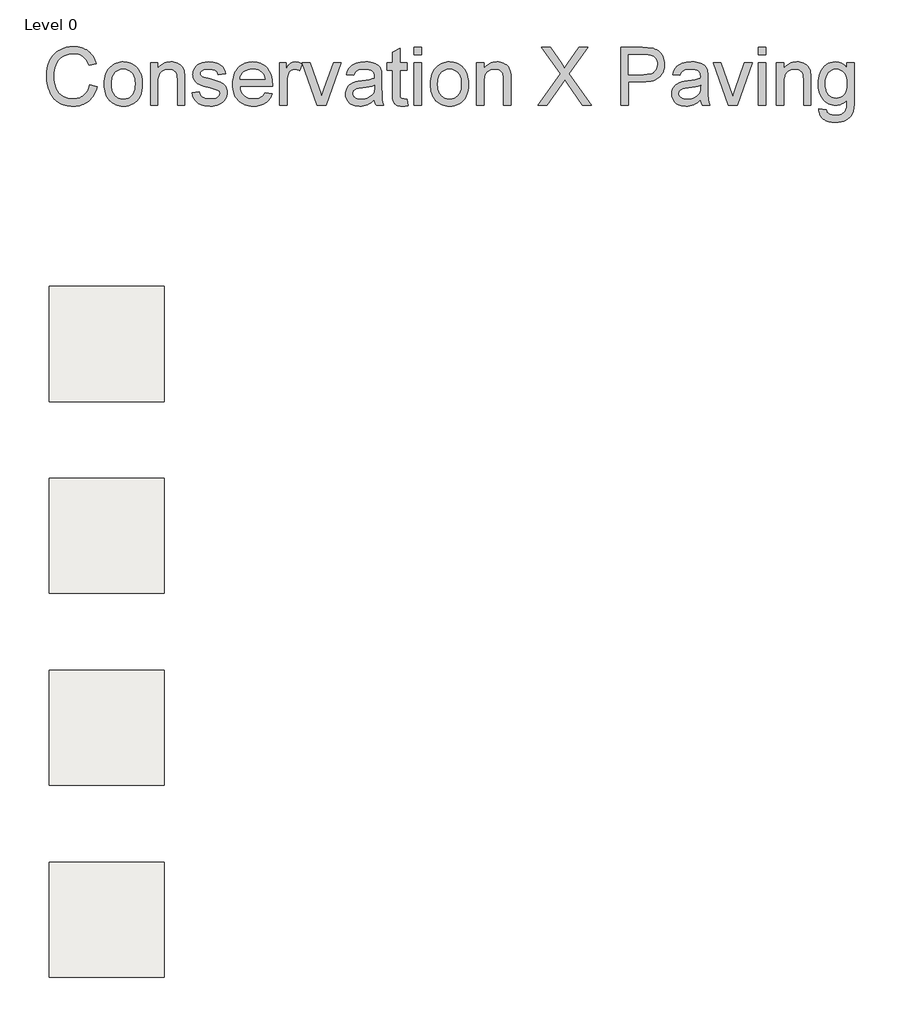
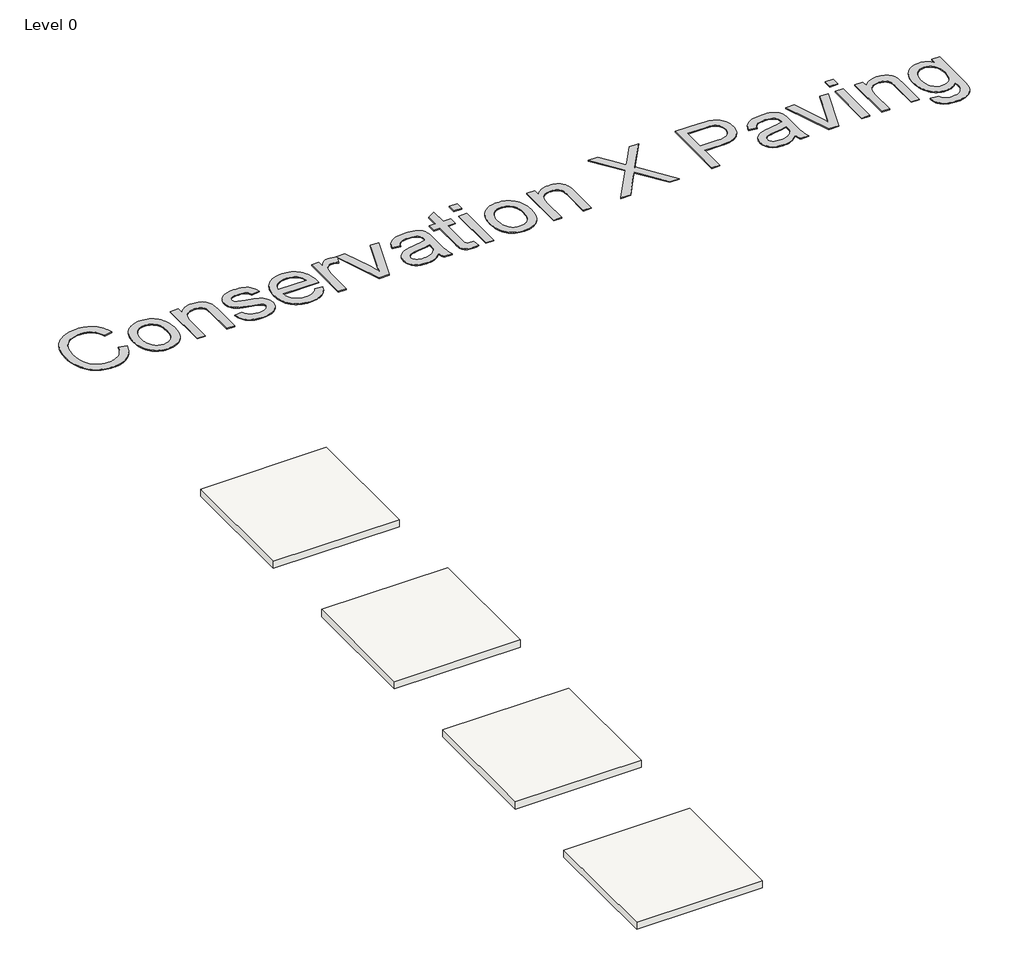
# One storey, incomplete: 4 slabs, 1 proxy.
"""IFC4 building model written with IfcOpenShell, lengths in millimetres."""

from ifc_helpers import new_model, si_unit, frame, origin, origin_with_axes, place, context, project, spatial, polyline, outline, extrude, element, save

model = new_model("IFC4")

# Units and contexts
model_context = context("Model", 3, world=origin())
ifc_project = project(units=[si_unit("LENGTHUNIT", "METRE", prefix="MILLI")], contexts=[model_context])

# Site, building, storey
site = spatial("IfcSite", under=ifc_project)
building = spatial("IfcBuilding", under=site)
storey = spatial("IfcBuildingStorey", under=building, Name="Level 0", Elevation=0.0)

# Proxy
placement = place(None, origin())
element("IfcBuildingElementProxy", 1, Name="1000mm Arial", ObjectType="1000mm Arial", at=placement, inside=storey, context=model_context, shape_type="SweptSolid", body=[
    extrude(outline(polyline([(-155.8721828, 3435.7231714), (32.4833987, 3387.162748), (15.3941304, 3326.7467525), (-4.7876459, 3270.0268215), (-28.0619303, 3217.0029548), (-54.4287227, 3167.6751526), (-83.8880231, 3122.0434148), (-116.4398315, 3080.1077415), (-152.0841479, 3041.8681325), (-190.8209724, 3007.324588), (-232.2306895, 2976.6725452), (-275.8936838, 2950.1074414), (-321.8099553, 2927.6292767), (-369.979504, 2909.238051), (-420.40233, 2894.9337644), (-473.0784332, 2884.7164168), (-528.0078136, 2878.5860082), (-585.1904712, 2876.5425387), (-644.0257237, 2878.0887927), (-700.0501279, 2882.7275547), (-753.2636837, 2890.4588248), (-803.6663911, 2901.2826029), (-851.2582501, 2915.198889), (-896.0392608, 2932.2076831), (-938.0094231, 2952.3089852), (-977.1687371, 2975.5027954), (-1013.7959882, 3001.6281652), (-1048.1699621, 3030.5241463), (-1080.2906588, 3062.1907387), (-1110.1580783, 3096.6279423), (-1137.7722206, 3133.8357572), (-1163.1330856, 3173.8141834), (-1186.2406734, 3216.5632209), (-1207.094984, 3262.0828696), (-1241.61841, 3357.6172253), (-1266.278, 3456.6004746), (-1281.073754, 3559.0326176), (-1286.005672, 3664.9136544), (-1280.4299605, 3778.520213), (-1263.7028261, 3884.631176), (-1251.1574752, 3934.8758091), (-1235.8242686, 3983.2465433), (-1217.7032063, 4029.7433786), (-1196.7942882, 4074.366315), (-1173.3159443, 4116.7388482), (-1147.4866045, 4156.4844741), (-1119.3062689, 4193.6031926), (-1088.7749373, 4228.0950037), (-1055.8926099, 4259.9599075), (-1020.6592867, 4289.1979039), (-983.0749675, 4315.8089929), (-943.1396525, 4339.7931745), (-858.8486904, 4379.4669484), (-770.4190558, 4407.8053584), (-677.8507487, 4424.8084043), (-581.1437693, 4430.4760863), (-526.1597814, 4428.6424245), (-473.4118262, 4423.141439), (-422.8999038, 4413.9731299), (-374.6240142, 4401.1374972), (-328.5841573, 4384.6345408), (-284.7803332, 4364.4642608), (-243.2125418, 4340.6266571), (-203.8807832, 4313.1217299), (-167.1184504, 4282.2886201), (-133.2589364, 4248.4664692), (-102.3022414, 4211.6552771), (-74.2483651, 4171.8550437), (-49.0973078, 4129.0657691), (-26.8490693, 4083.2874534), (-7.5036497, 4034.5200964), (8.938951, 3982.7636982), (-179.4166305, 3937.8820948), (-209.0771164, 4011.9528352), (-244.7156847, 4075.2400347), (-286.3323354, 4127.7436932), (-333.9270685, 4169.4638107), (-387.7757955, 4201.2511144), (-448.154428, 4223.9563313), (-515.0629659, 4237.5794614), (-588.5014092, 4242.1205048), (-672.9993049, 4237.08512), (-750.2775165, 4221.9789655), (-820.336044, 4196.8020415), (-883.1748873, 4161.5543478), (-938.0008009, 4117.8223757), (-984.0205392, 4067.1926161), (-1021.2341023, 4009.6650691), (-1049.6414901, 3945.2397347), (-1070.6452528, 3876.8366762), (-1085.6479404, 3807.375957), (-1094.649553, 3736.857577), (-1097.6500905, 3665.2815363), (-1094.09773, 3575.3343885), (-1083.4406484, 3491.2733526), (-1065.6788458, 3413.0984287), (-1040.8123222, 3340.8096166), (-1008.4387067, 3275.8439555), (-968.1556282, 3219.6384844), (-919.9630868, 3172.1932034), (-863.8610825, 3133.5081123), (-802.5742414, 3103.4912408), (-738.8271894, 3082.0506182), (-672.6199266, 3069.1862447), (-603.952453, 3064.8981202), (-522.0642201, 3070.7382469), (-483.5774404, 3078.0384052), (-446.7288853, 3088.2586269), (-411.5185546, 3101.3989119), (-377.9464485, 3117.4592603), (-346.0125669, 3136.439672), (-315.7169097, 3158.340147), (-287.4273591, 3183.1147001), (-261.511797, 3210.7173461), (-237.9702234, 3241.1480848), (-216.8026383, 3274.4069165), (-198.0090417, 3310.4938409), (-181.5894336, 3349.4088582), (-155.8721828, 3435.7231714)])), origin_with_axes(), (0.0, 0.0, 1.0), 20.0),
    extrude(outline(polyline([(220.8389802, 3453.3815071), (223.3854134, 3527.5154773), (231.024713, 3596.6945369), (243.7568789, 3660.9186858), (261.5819112, 3720.1879241), (284.4998099, 3774.5022518), (312.5105749, 3823.8616689), (345.6142063, 3868.2661753), (383.8107041, 3907.7157712), (418.77099, 3936.4278113), (455.5936784, 3961.3115793), (494.2787695, 3982.3670754), (534.8262631, 3999.5942995), (577.2361594, 4012.9932515), (621.5084582, 4022.5639315), (667.6431597, 4028.3063396), (715.6402637, 4030.2204756), (768.8423232, 4027.8895982), (819.5554311, 4020.8969662), (867.7795873, 4009.2425796), (913.5147919, 3992.9264383), (956.7610449, 3971.9485423), (997.5183462, 3946.3088917), (1035.786696, 3916.0074864), (1071.5660941, 3881.0443265), (1103.9425837, 3841.9712349), (1132.0022081, 3799.3400347), (1155.7449672, 3753.1507257), (1175.170861, 3703.4033081), (1190.2798895, 3650.0977818), (1201.0720527, 3593.2341469), (1207.5473506, 3532.8124032), (1209.7057833, 3468.8325509), (1205.8890076, 3368.0098916), (1194.4386805, 3278.5455889), (1175.354802, 3200.4396428), (1148.6373721, 3133.6920533), (1114.6197838, 3076.0380469), (1073.6354303, 3025.21285), (1025.6843115, 2981.2164626), (970.7664274, 2944.0488848), (911.0200921, 2914.5148584), (848.5836198, 2893.4191252), (783.4570103, 2880.7616853), (715.6402637, 2876.5425387), (661.5989735, 2878.8647938), (610.2075832, 2885.8315591), (561.4660929, 2897.4428345), (515.3745026, 2913.6986202), (471.9328123, 2934.5989161), (431.141022, 2960.1437221), (392.9991317, 2990.3330383), (357.5071414, 3025.1668647), (325.4755412, 3064.3692898), (297.7148209, 3107.6644022), (274.2249807, 3155.0522017), (255.0060205, 3206.5326884), (240.0579404, 3262.1058623), (229.3807403, 3321.7717234), (222.9744203, 3385.5302716), (220.8389802, 3453.3815071)]), holes=[polyline([(409.1945618, 3453.7493891), (414.6438138, 3362.3881949), (421.4553789, 3321.3032486), (430.99157, 3283.2820696), (443.2523871, 3248.3246578), (458.2378302, 3216.4310133), (475.9478994, 3187.601136), (496.3825946, 3161.8350259), (518.8808779, 3139.1154387), (542.7817113, 3119.4251297), (568.0850947, 3102.764099), (594.7910283, 3089.1323467), (622.899512, 3078.5298726), (652.4105458, 3070.9566768), (715.6402637, 3064.8981202), (778.5480849, 3070.9911658), (807.9326593, 3078.6074727), (835.9376762, 3089.2703024), (862.5631356, 3102.9796549), (887.8090375, 3119.7355301), (911.6753819, 3139.5379281), (934.1621689, 3162.3868489), (954.5968641, 3188.3570185), (972.3069333, 3217.523163), (987.2923764, 3249.8852822), (999.5531935, 3285.4433763), (1009.0893846, 3324.1974453), (1015.9009497, 3366.147489), (1021.3502017, 3459.635501), (1015.8664607, 3548.0996246), (1009.0117845, 3588.0464359), (999.4152378, 3625.1364136), (987.0768205, 3659.3695577), (971.9965328, 3690.7458682), (954.1743746, 3719.2653451), (933.6103459, 3744.9279883), (887.0847698, 3787.3378846), (861.8302457, 3803.9989152), (835.2478974, 3817.6306676), (807.3377251, 3828.2331417), (778.0997287, 3835.8063374), (715.6402637, 3841.864894), (652.4105458, 3835.82933), (622.899512, 3828.2848751), (594.7910283, 3817.7226381), (568.0850947, 3804.1426191), (542.7817113, 3787.5448182), (518.8808779, 3767.9292352), (496.3825946, 3745.2958703), (475.9478994, 3719.6159826), (458.2378302, 3690.8608313), (443.2523871, 3659.0304165), (430.99157, 3624.1247381), (421.4553789, 3586.1437962), (414.6438138, 3545.0875907), (409.1945618, 3453.7493891)])]), origin_with_axes(), (0.0, 0.0, 1.0), 20.0),
    extrude(outline(polyline([(1421.6058125, 2900.0869864), (1421.6058125, 4006.6760279), (1609.961394, 4006.6760279), (1609.961394, 3852.1655899), (1641.0359263, 3893.8972037), (1675.3984039, 3930.0646024), (1713.0488269, 3960.6677858), (1753.9871951, 3985.7067541), (1798.2135087, 4005.1815073), (1845.7277677, 4019.0920452), (1896.529972, 4027.438368), (1950.6201216, 4030.2204756), (1998.0194174, 4027.9786947), (2043.4643401, 4021.2533519), (2086.9548897, 4010.0444474), (2128.4910662, 3994.351981), (2166.4978748, 3975.0151837), (2199.4003208, 3952.8732861), (2227.1984041, 3927.9262883), (2249.8921246, 3900.1741903), (2268.5276469, 3869.651481), (2284.1511354, 3836.3926494), (2296.7625901, 3800.3976954), (2306.3620109, 3761.6666191), (2313.8116213, 3690.2055415), (2316.2948248, 3579.5650315), (2316.2948248, 2900.0869864), (2127.9392432, 2900.0869864), (2127.9392432, 3554.1811738), (2122.5129838, 3651.577932), (2115.7301595, 3689.7226964), (2106.2342055, 3720.8317176), (2093.3008541, 3747.0318135), (2076.2058377, 3770.4498017), (2054.9491561, 3791.0856824), (2029.5308095, 3808.9394555), (2000.8245176, 3823.3443348), (1969.7040001, 3833.6335344), (1936.1692569, 3839.8070541), (1900.2202882, 3841.864894), (1843.0261343, 3837.2433765), (1789.9016749, 3823.3788238), (1740.8469101, 3800.271236), (1695.8618399, 3767.920613), (1675.7289229, 3747.3594584), (1658.2803948, 3722.648135), (1643.5162557, 3693.7866428), (1631.4365055, 3660.7749819), (1622.0411442, 3623.6131522), (1615.3301719, 3582.3011538), (1609.961394, 3487.2266507), (1609.961394, 2900.0869864), (1421.6058125, 2900.0869864)])), origin_with_axes(), (0.0, 0.0, 1.0), 20.0),
    extrude(outline(polyline([(2504.6504063, 3229.7092541), (2693.0059878, 3253.2537017), (2704.387337, 3210.3034788), (2722.7124589, 3172.6875448), (2747.9813535, 3140.4058997), (2780.1940207, 3113.4585436), (2819.442431, 3092.2133584), (2865.8185551, 3077.0382261), (2919.3223927, 3067.9331467), (2979.9539441, 3064.8981202), (3040.5165175, 3067.6802278), (3092.7097756, 3076.0265506), (3136.5337183, 3089.9370885), (3171.9883455, 3109.4118416), (3199.3495689, 3132.6343926), (3218.8932999, 3157.788324), (3230.6195385, 3184.8736359), (3234.5282847, 3213.8903283), (3230.5965459, 3239.3201712), (3218.8013294, 3261.8989286), (3199.1426353, 3281.6266006), (3171.6204635, 3298.5031872), (3101.079091, 3322.4155168), (2977.7466521, 3352.2139585), (2805.8537898, 3401.924013), (2742.4631235, 3424.0544143), (2694.1096338, 3444.3683982), (2655.7464395, 3465.6480724), (2622.3266595, 3490.6755444), (2593.8502938, 3519.4508142), (2570.3173424, 3551.9738818), (2551.8887537, 3587.2675607), (2538.7254761, 3624.3546644), (2530.8275095, 3663.2351927), (2528.194854, 3703.9091458), (2530.3101755, 3741.0997163), (2536.6561399, 3776.8877366), (2547.2327472, 3811.2732069), (2562.0399975, 3844.256127), (2580.5030752, 3875.1697109), (2602.0471645, 3903.3471725), (2626.6722656, 3928.7885117), (2654.3783783, 3951.4937286), (2706.3876954, 3981.7980079), (2774.1239678, 4007.2278509), (2852.4368475, 4024.4723194), (2936.1759866, 4030.2204756), (2999.4746824, 4027.9097168), (3058.7726615, 4020.9774404), (3114.0699239, 4009.4236465), (3165.3664696, 3993.248335), (3211.4436895, 3973.1297884), (3251.0829745, 3949.7462891), (3284.2843246, 3923.0978371), (3311.0477397, 3893.1844324), (3332.7527774, 3858.9599105), (3350.7789952, 3819.3781071), (3365.126393, 3774.4390221), (3375.7949709, 3724.1426556), (3187.4393893, 3700.5982079), (3178.4607694, 3732.0636148), (3163.6650154, 3759.8731944), (3143.0521274, 3784.0269466), (3116.6221053, 3804.5248715), (3084.259986, 3820.8611314), (3045.8508064, 3832.5298884), (3001.3945666, 3839.5311426), (2950.8912664, 3841.864894), (2892.3060587, 3839.6346094), (2842.7339599, 3832.9437556), (2802.1749699, 3821.7923327), (2770.6290888, 3806.1803405), (2746.969678, 3787.6022997), (2730.0700988, 3767.552731), (2719.9303513, 3746.0316343), (2716.5504355, 3723.0390096), (2722.1606359, 3694.0683025), (2738.9912372, 3668.2245923), (2767.7780033, 3645.1399971), (2809.2566983, 3626.6539269), (2971.4926582, 3586.5547894), (3137.9132757, 3537.3505725), (3247.9559775, 3497.8952285), (3286.6755575, 3478.6504017), (3320.9805536, 3455.4968286), (3350.8709657, 3428.4345093), (3376.3467939, 3397.4634439), (3396.706763, 3362.5376469), (3411.2495982, 3323.6111333), (3419.9752992, 3280.683903), (3422.8838663, 3233.755956), (3419.4694615, 3186.6210754), (3409.2262472, 3140.8657522), (3392.1542233, 3096.4899866), (3368.25339, 3053.4937784), (3337.9146217, 3013.5900782), (3301.5287931, 2978.4918366), (3259.0959042, 2948.1990536), (3210.615955, 2922.7117291), (3157.4110215, 2902.5127083), (3100.8031795, 2888.0848363), (3040.792429, 2879.4281131), (2977.3787701, 2876.5425387), (2876.0042878, 2882.1067539), (2830.1282534, 2889.0620228), (2787.4596901, 2898.7993994), (2747.9985979, 2911.3188835), (2711.744977, 2926.6204753), (2678.6988271, 2944.7041746), (2648.8601484, 2965.5699815), (2621.9012959, 2989.1719108), (2597.4946248, 3015.4639771), (2575.640135, 3044.4461805), (2556.3378266, 3076.1185211), (2539.5876995, 3110.4809987), (2525.3897538, 3147.5336134), (2504.6504063, 3229.7092541)])), origin_with_axes(), (0.0, 0.0, 1.0), 20.0),
    extrude(outline(polyline([(4409.5433773, 3229.7092541), (4594.2201389, 3206.1648064), (4565.9047216, 3132.1975327), (4548.03083, 3098.5075894), (4527.679483, 3067.0134417), (4504.8506808, 3037.7150897), (4479.5444232, 3010.6125333), (4451.7607103, 2985.7057726), (4421.4995422, 2962.9948076), (4388.9103707, 2942.732557), (4354.1426481, 2925.1719399), (4317.1963743, 2910.3129562), (4278.0715493, 2898.1556059), (4193.2862457, 2881.9458055), (4099.7867374, 2876.5425387), (4039.7587424, 2878.873416), (3982.915226, 2885.866048), (3929.2561881, 2897.5204346), (3878.7816288, 2913.8365759), (3831.4915479, 2934.8144719), (3787.3859456, 2960.4541225), (3746.4648218, 2990.7555278), (3708.7281765, 3025.7186877), (3674.8427959, 3064.889498), (3645.475466, 3107.8138542), (3620.6261868, 3154.4917564), (3600.2949584, 3204.9232046), (3584.4817808, 3259.1081988), (3573.1866539, 3317.046739), (3566.4095778, 3378.7388251), (3564.1505524, 3444.1844572), (3566.4325704, 3511.8574999), (3573.2786244, 3575.6332926), (3584.6887144, 3635.5118355), (3600.6628404, 3691.4931285), (3621.2010024, 3743.5771716), (3646.3032004, 3791.7639648), (3675.9694345, 3836.0535081), (3710.1997045, 3876.4458016), (3748.0685574, 3912.4867408), (3788.65054, 3943.7222214), (3831.9456523, 3970.1522435), (3877.9538943, 3991.7768071), (3926.675266, 4008.595912), (3978.1097675, 4020.6095584), (4032.2573986, 4027.8177463), (4089.1181595, 4030.2204756), (4144.1193919, 4027.8234944), (4196.5511984, 4020.6325511), (4246.4135792, 4008.6476454), (4293.7065341, 3991.8687776), (4338.4300632, 3970.2959474), (4380.5841665, 3943.9291551), (4420.168844, 3912.7684004), (4457.1840957, 3876.8136836), (4490.6814758, 3836.5133606), (4519.7125386, 3792.3157878), (4544.277284, 3744.2209651), (4564.375712, 3692.2288925), (4580.0078228, 3636.33957), (4591.1736161, 3576.5529976), (4597.8730921, 3512.8691754), (4600.1062508, 3445.2881032), (4599.0026048, 3394.5203879), (3752.5061339, 3394.5203879), (3763.4161343, 3319.3574978), (3772.9149624, 3285.2766798), (3785.1096758, 3253.5296132), (3800.0002743, 3224.1162981), (3817.5867581, 3197.0367344), (3837.8691272, 3172.290922), (3860.8473815, 3149.8788611), (3912.5003129, 3112.699787), (3970.1543193, 3086.1433054), (4033.8094008, 3070.2094165), (4103.4655573, 3064.8981202), (4155.5668449, 3067.3583311), (4203.713401, 3074.7389636), (4247.9052257, 3087.0400178), (4288.1423189, 3104.2614937), (4324.4246807, 3126.8632438), (4356.752311, 3155.3051205), (4385.1252099, 3189.587124), (4409.5433773, 3229.7092541)]), holes=[polyline([(3752.5061339, 3582.8759694), (4411.7506693, 3582.8759694), (4402.0707743, 3636.1728735), (4386.2748411, 3682.3880491), (4364.3628698, 3721.5214964), (4336.3348603, 3753.5732152), (4311.5373145, 3774.2665774), (4284.9693367, 3792.2008247), (4256.6309268, 3807.375957), (4226.5220847, 3819.7919743), (4160.9931043, 3836.3466641), (4088.3823955, 3841.864894), (4022.1521401, 3837.4618064), (3961.4171219, 3824.2525435), (3906.1773411, 3802.2371054), (3856.4327976, 3771.415492), (3814.6896874, 3733.213246), (3783.4542068, 3689.0559103), (3762.7263556, 3638.9434848), (3752.5061339, 3582.8759694)])]), origin_with_axes(), (0.0, 0.0, 1.0), 20.0),
    extrude(outline(polyline([(5766.2921755, 2900.0869864), (5377.0730246, 4006.6760279), (5576.465066, 4006.6760279), (5812.2774249, 3343.7526726), (5849.3415359, 3234.307779), (5883.27865, 3120.8161835), (5913.1690621, 3217.2012662), (5952.8083471, 3331.2446847), (6190.092234, 4006.6760279), (6389.4842754, 4006.6760279), (6005.0475904, 2900.0869864), (5766.2921755, 2900.0869864)])), origin_with_axes(), (0.0, 0.0, 1.0), 20.0),
    extrude(outline(polyline([(4788.4618323, 2900.0869864), (4788.4618323, 4006.6760279), (4953.2729662, 4006.6760279), (4953.2729662, 3842.96854), (4984.3130095, 3895.2997538), (5014.1574364, 3937.8820948), (5042.8062468, 3970.7155628), (5070.2594407, 3993.800158), (5097.7586198, 4009.734047), (5126.5453859, 4021.1153962), (5156.619739, 4027.9442057), (5187.9816791, 4030.2204756), (5234.7026925, 4026.5876409), (5281.7915879, 4015.6891368), (5329.2483653, 3997.5249632), (5377.0730246, 3972.0951203), (5314.1652035, 3803.2372845), (5281.0558239, 3820.1368637), (5247.9464443, 3832.2079917), (5214.8370648, 3839.4506684), (5181.7276852, 3841.864894), (5152.8604449, 3839.5426389), (5125.4877252, 3832.5758737), (5099.6095261, 3820.9645982), (5075.2258476, 3804.7088125), (5053.2563947, 3784.337347), (5034.6208724, 3760.3790321), (5019.3192806, 3732.8338677), (5007.3516195, 3701.7018539), (4993.9929045, 3650.290345), (4984.4509653, 3596.4876032), (4978.7258017, 3540.2936285), (4976.8174139, 3481.7084208), (4976.8174139, 2900.0869864), (4788.4618323, 2900.0869864)])), origin_with_axes(), (0.0, 0.0, 1.0), 20.0),
    extrude(outline(polyline([(7260.6288399, 3041.3536725), (7215.9656665, 2999.4381177), (7170.6357069, 2964.190424), (7124.6389612, 2935.6105915), (7077.9754293, 2913.6986202), (7030.116281, 2897.4428345), (6980.5326859, 2885.8315591), (6929.2246438, 2878.8647938), (6876.192155, 2876.5425387), (6792.3265564, 2882.1297465), (6754.2651403, 2889.1137562), (6718.7846463, 2898.8913699), (6685.8850744, 2911.4625874), (6655.5664247, 2926.8274089), (6627.8286971, 2944.9858343), (6602.6718916, 2965.9378635), (6580.2971937, 2989.0626958), (6560.9057888, 3013.7395303), (6544.497677, 3039.9683669), (6531.0728583, 3067.7492057), (6520.6313326, 3097.0820466), (6513.1730999, 3127.9668898), (6507.2065138, 3194.3925825), (6509.459791, 3234.3307716), (6516.2196227, 3272.475536), (6527.4860088, 3308.8268756), (6543.2589493, 3343.3847906), (6562.6992135, 3375.3905241), (6584.9675705, 3404.0853198), (6610.0640204, 3429.4691774), (6637.9885631, 3451.5420971), (6700.298576, 3487.4105917), (6769.8742584, 3513.3462723), (6837.656516, 3527.7856406), (6932.8459822, 3541.673186), (7036.4507491, 3555.9286133), (7125.4322067, 3571.4716276), (7199.790355, 3588.3022289), (7259.525194, 3606.4204171), (7260.6288399, 3648.3589646), (7257.3868799, 3694.0223172), (7247.6609996, 3732.4200005), (7231.4511992, 3763.5520143), (7208.7574786, 3787.4183587), (7169.5320609, 3811.2387179), (7121.7533868, 3828.2532602), (7065.4214562, 3838.4619856), (7000.5362693, 3841.864894), (6940.2036221, 3839.6001205), (6888.3322608, 3832.8057999), (6844.9221854, 3821.4819322), (6809.9733958, 3805.6285175), (6781.2556076, 3784.003954), (6756.538536, 3755.3666399), (6735.8221812, 3719.7165753), (6719.106543, 3677.0537602), (6530.7509615, 3700.5982079), (6545.086863, 3754.8608022), (6563.4464738, 3803.6051665), (6585.829794, 3846.831301), (6612.2368234, 3884.5392055), (6643.8056971, 3917.4876367), (6681.67455, 3946.4353512), (6725.8433821, 3971.382349), (6776.3121933, 3992.3286301), (6832.0578119, 4008.9063125), (6892.057066, 4020.7475142), (6956.3099557, 4027.8522352), (7024.816481, 4030.2204756), (7091.7825005, 4028.1281467), (7152.1496366, 4021.8511602), (7205.9178895, 4011.3895159), (7253.087259, 3996.743214), (7294.0486199, 3978.9354262), (7329.1928468, 3958.9893242), (7358.5199396, 3936.9049082), (7382.0298983, 3912.6821781), (7401.0907842, 3885.7233256), (7417.0706584, 3855.4305426), (7429.9695208, 3821.803829), (7439.7873716, 3784.8431848), (7446.685159, 3719.7280716), (7448.9844215, 3620.0320509), (7448.9844215, 3385.69122), (7451.3756544, 3181.5626979), (7458.5493533, 3058.4601853), (7472.7128102, 2977.5721316), (7496.0733168, 2900.0869864), (7307.7177353, 2900.0869864), (7290.9791045, 2931.540897), (7277.5514117, 2965.5699815), (7267.4346568, 3002.17424), (7260.6288399, 3041.3536725)]), holes=[polyline([(7260.6288399, 3418.0648356), (7203.6991012, 3401.7630647), (7134.0774336, 3386.7028955), (6956.7583119, 3360.3073623), (6859.039657, 3345.867994), (6794.706293, 3329.7731567), (6752.5378193, 3308.8958535), (6735.557766, 3295.4911533), (6721.313835, 3280.1090874), (6710.0474489, 3263.3014787), (6702.0000303, 3245.6201503), (6697.1715791, 3227.0651022), (6695.5620953, 3207.6363343), (6699.0684706, 3178.3667231), (6709.5875964, 3151.6263006), (6727.1194727, 3127.4150668), (6751.6640996, 3105.7330217), (6782.9915508, 3087.8677523), (6820.8719, 3075.1068456), (6865.3051472, 3067.4503016), (6916.2912925, 3064.8981202), (6968.3465948, 3067.7147167), (7017.4588411, 3076.1645063), (7063.6280315, 3090.2474889), (7106.854166, 3109.9636646), (7145.8496574, 3133.680557), (7179.326919, 3159.7656897), (7207.2859506, 3188.2190628), (7229.7267523, 3219.0406762), (7242.7635705, 3246.6318258), (7252.0755835, 3280.1090874), (7257.6627914, 3319.4724609), (7259.525194, 3364.7219463), (7260.6288399, 3418.0648356)])]), origin_with_axes(), (0.0, 0.0, 1.0), 20.0),
    extrude(outline(polyline([(8108.2289568, 3057.1725983), (8131.7734045, 2894.5687565), (8057.18533, 2881.0490931), (7990.8746004, 2876.5425387), (7942.7970221, 2878.4969118), (7900.4676, 2884.3600311), (7863.8863342, 2894.1318966), (7833.0532244, 2907.8125083), (7807.163529, 2924.6661022), (7785.4125061, 2943.9569143), (7767.8001555, 2965.6849446), (7754.3264775, 2989.8501932), (7744.3476783, 3022.2468014), (7737.2199647, 3068.6689107), (7732.9433365, 3129.116521), (7731.5177938, 3203.5896324), (7731.5177938, 3818.3204463), (7590.2511076, 3818.3204463), (7590.2511076, 4006.6760279), (7731.5177938, 4006.6760279), (7731.5177938, 4275.5977663), (7919.8733753, 4386.3302469), (7919.8733753, 4006.6760279), (8108.2289568, 4006.6760279), (8108.2289568, 3818.3204463), (7919.8733753, 3818.3204463), (7919.8733753, 3209.1078623), (7922.3565788, 3147.1197461), (7929.8061892, 3111.9870156), (7942.8200147, 3092.5352551), (7961.9958637, 3077.5900491), (7989.1731461, 3068.0711024), (8026.1912719, 3064.8981202), (8108.2289568, 3057.1725983)])), origin_with_axes(), (0.0, 0.0, 1.0), 20.0),
    extrude(outline(polyline([(8296.5845384, 4218.5760571), (8296.5845384, 4406.9316386), (8484.9401199, 4406.9316386), (8484.9401199, 4218.5760571), (8296.5845384, 4218.5760571)])), origin_with_axes(), (0.0, 0.0, 1.0), 20.0),
    extrude(outline(polyline([(8296.5845384, 2900.0869864), (8296.5845384, 4006.6760279), (8484.9401199, 4006.6760279), (8484.9401199, 2900.0869864), (8296.5845384, 2900.0869864)])), origin_with_axes(), (0.0, 0.0, 1.0), 20.0),
    extrude(outline(polyline([(8720.3845968, 3453.3815071), (8722.93103, 3527.5154773), (8730.5703295, 3596.6945369), (8743.3024955, 3660.9186858), (8761.1275278, 3720.1879241), (8784.0454264, 3774.5022518), (8812.0561915, 3823.8616689), (8845.1598229, 3868.2661753), (8883.3563207, 3907.7157712), (8918.3166065, 3936.4278113), (8955.139295, 3961.3115793), (8993.824386, 3982.3670754), (9034.3718797, 3999.5942995), (9076.7817759, 4012.9932515), (9121.0540748, 4022.5639315), (9167.1887763, 4028.3063396), (9215.1858803, 4030.2204756), (9268.3879398, 4027.8895982), (9319.1010476, 4020.8969662), (9367.3252039, 4009.2425796), (9413.0604085, 3992.9264383), (9456.3066614, 3971.9485423), (9497.0639628, 3946.3088917), (9535.3323125, 3916.0074864), (9571.1117106, 3881.0443265), (9603.4882003, 3841.9712349), (9631.5478247, 3799.3400347), (9655.2905837, 3753.1507257), (9674.7164775, 3703.4033081), (9689.825506, 3650.0977818), (9700.6176693, 3593.2341469), (9707.0929672, 3532.8124032), (9709.2513998, 3468.8325509), (9705.4346241, 3368.0098916), (9693.984297, 3278.5455889), (9674.9004185, 3200.4396428), (9648.1829886, 3133.6920533), (9614.1654004, 3076.0380469), (9573.1810469, 3025.21285), (9525.2299281, 2981.2164626), (9470.312044, 2944.0488848), (9410.5657087, 2914.5148584), (9348.1292363, 2893.4191252), (9283.0026269, 2880.7616853), (9215.1858803, 2876.5425387), (9161.14459, 2878.8647938), (9109.7531998, 2885.8315591), (9061.0117095, 2897.4428345), (9014.9201192, 2913.6986202), (8971.4784289, 2934.5989161), (8930.6866386, 2960.1437221), (8892.5447483, 2990.3330383), (8857.052758, 3025.1668647), (8825.0211577, 3064.3692898), (8797.2604375, 3107.6644022), (8773.7705973, 3155.0522017), (8754.5516371, 3206.5326884), (8739.603557, 3262.1058623), (8728.9263569, 3321.7717234), (8722.5200368, 3385.5302716), (8720.3845968, 3453.3815071)]), holes=[polyline([(8908.7401783, 3453.7493891), (8914.1894304, 3362.3881949), (8921.0009954, 3321.3032486), (8930.5371865, 3283.2820696), (8942.7980037, 3248.3246578), (8957.7834468, 3216.4310133), (8975.493516, 3187.601136), (8995.9282112, 3161.8350259), (9018.4264945, 3139.1154387), (9042.3273278, 3119.4251297), (9067.6307113, 3102.764099), (9094.3366449, 3089.1323467), (9122.4451286, 3078.5298726), (9151.9561624, 3070.9566768), (9215.1858803, 3064.8981202), (9278.0937015, 3070.9911658), (9307.4782759, 3078.6074727), (9335.4832927, 3089.2703024), (9362.1087521, 3102.9796549), (9387.3546541, 3119.7355301), (9411.2209985, 3139.5379281), (9433.7077854, 3162.3868489), (9454.1424806, 3188.3570185), (9471.8525498, 3217.523163), (9486.837993, 3249.8852822), (9499.0988101, 3285.4433763), (9508.6350012, 3324.1974453), (9515.4465662, 3366.147489), (9520.8958183, 3459.635501), (9515.4120773, 3548.0996246), (9508.5574011, 3588.0464359), (9498.9608543, 3625.1364136), (9486.6224371, 3659.3695577), (9471.5421494, 3690.7458682), (9453.7199912, 3719.2653451), (9433.1559625, 3744.9279883), (9386.6303864, 3787.3378846), (9361.3758622, 3803.9989152), (9334.793514, 3817.6306676), (9306.8833417, 3828.2331417), (9277.6453453, 3835.8063374), (9215.1858803, 3841.864894), (9151.9561624, 3835.82933), (9122.4451286, 3828.2848751), (9094.3366449, 3817.7226381), (9067.6307113, 3804.1426191), (9042.3273278, 3787.5448182), (9018.4264945, 3767.9292352), (8995.9282112, 3745.2958703), (8975.493516, 3719.6159826), (8957.7834468, 3690.8608313), (8942.7980037, 3659.0304165), (8930.5371865, 3624.1247381), (8921.0009954, 3586.1437962), (8914.1894304, 3545.0875907), (8908.7401783, 3453.7493891)])]), origin_with_axes(), (0.0, 0.0, 1.0), 20.0),
    extrude(outline(polyline([(9921.1514291, 2900.0869864), (9921.1514291, 4006.6760279), (10109.5070106, 4006.6760279), (10109.5070106, 3852.1655899), (10140.5815429, 3893.8972037), (10174.9440205, 3930.0646024), (10212.5944434, 3960.6677858), (10253.5328117, 3985.7067541), (10297.7591253, 4005.1815073), (10345.2733842, 4019.0920452), (10396.0755885, 4027.438368), (10450.1657381, 4030.2204756), (10497.5650339, 4027.9786947), (10543.0099567, 4021.2533519), (10586.5005063, 4010.0444474), (10628.0366828, 3994.351981), (10666.0434914, 3975.0151837), (10698.9459374, 3952.8732861), (10726.7440206, 3927.9262883), (10749.4377412, 3900.1741903), (10768.0732635, 3869.651481), (10783.696752, 3836.3926494), (10796.3082066, 3800.3976954), (10805.9076275, 3761.6666191), (10813.3572379, 3690.2055415), (10815.8404413, 3579.5650315), (10815.8404413, 2900.0869864), (10627.4848598, 2900.0869864), (10627.4848598, 3554.1811738), (10622.0586004, 3651.577932), (10615.2757761, 3689.7226964), (10605.7798221, 3720.8317176), (10592.8464707, 3747.0318135), (10575.7514542, 3770.4498017), (10554.4947727, 3791.0856824), (10529.0764261, 3808.9394555), (10500.3701341, 3823.3443348), (10469.2496166, 3833.6335344), (10435.7148735, 3839.8070541), (10399.7659048, 3841.864894), (10342.5717508, 3837.2433765), (10289.4472915, 3823.3788238), (10240.3925267, 3800.271236), (10195.4074565, 3767.920613), (10175.2745395, 3747.3594584), (10157.8260114, 3722.648135), (10143.0618723, 3693.7866428), (10130.9821221, 3660.7749819), (10121.5867608, 3623.6131522), (10114.8757885, 3582.3011538), (10109.5070106, 3487.2266507), (10109.5070106, 2900.0869864), (9921.1514291, 2900.0869864)])), origin_with_axes(), (0.0, 0.0, 1.0), 20.0),
    extrude(outline(polyline([(11522.1738721, 2900.0869864), (12103.0595424, 3721.1995996), (11616.3516628, 4406.9316386), (11842.2312079, 4406.9316386), (12116.3032943, 4021.0234257), (12181.6943189, 3923.2587855), (12199.9734556, 3891.2760445), (12208.6416751, 3870.5596897), (12316.7989816, 4023.5985996), (12587.9280121, 4406.9316386), (12817.1184951, 4406.9316386), (12330.4106155, 3718.9923076), (12911.2962859, 2900.0869864), (12685.4167408, 2900.0869864), (12298.4048819, 3446.0238672), (12217.8387249, 3559.3315217), (12129.1791641, 3434.9874074), (11751.3643551, 2900.0869864), (11522.1738721, 2900.0869864)])), origin_with_axes(), (0.0, 0.0, 1.0), 20.0),
    extrude(outline(polyline([(13688.2630597, 2900.0869864), (13688.2630597, 4406.9316386), (14246.7079283, 4406.9316386), (14376.7542136, 4403.3447892), (14471.8517094, 4392.5842408), (14524.2633974, 4381.2833658), (14572.2375088, 4365.7748404), (14615.7740437, 4346.0586647), (14654.873002, 4322.1348387), (14689.948251, 4293.509021), (14721.4136579, 4259.6868701), (14749.2692227, 4220.6683859), (14773.5149454, 4176.4535686), (14793.1506469, 4128.5024498), (14807.176148, 4078.2750612), (14815.5914486, 4025.7714027), (14818.3965488, 3970.9914743), (14816.5025314, 3923.8163566), (14810.820479, 3878.4921452), (14801.3503917, 3835.01884), (14788.0922695, 3793.3964412), (14771.0461124, 3753.6249486), (14750.2119203, 3715.7043623), (14725.5896933, 3679.6346823), (14697.1794314, 3645.4159086), (14663.8257552, 3614.2034206), (14624.3732853, 3587.1525976), (14578.8220217, 3564.2634397), (14527.1719644, 3545.5359469), (14469.4231134, 3530.9701192), (14405.5754687, 3520.5659565), (14335.6290303, 3514.3234589), (14259.5837982, 3512.2426264), (13876.6186412, 3512.2426264), (13876.6186412, 2900.0869864), (13688.2630597, 2900.0869864)]), holes=[polyline([(13876.6186412, 3700.5982079), (14270.620258, 3700.5982079), (14361.2111993, 3704.9208213), (14437.6386838, 3717.8886617), (14470.5411298, 3727.6145419), (14499.9027115, 3739.5017289), (14525.7234291, 3753.5502226), (14548.0032824, 3769.760023), (14583.8947695, 3807.8588021), (14609.5315461, 3852.9933244), (14624.913612, 3905.1635898), (14630.0409673, 3964.3695984), (14627.0174372, 4008.3314968), (14617.9468467, 4048.9824573), (14602.829196, 4086.3224798), (14581.664485, 4120.3515644), (14555.5793522, 4149.966065), (14525.7004364, 4174.0623357), (14492.0277376, 4192.6403764), (14454.5612556, 4205.7001873), (14381.9045616, 4215.3570896), (14266.2056741, 4218.5760571), (13876.6186412, 4218.5760571), (13876.6186412, 3700.5982079)])]), origin_with_axes(), (0.0, 0.0, 1.0), 20.0),
    extrude(outline(polyline([(15760.1744565, 3041.3536725), (15715.511283, 2999.4381177), (15670.1813234, 2964.190424), (15624.1845777, 2935.6105915), (15577.5210459, 2913.6986202), (15529.6618976, 2897.4428345), (15480.0783024, 2885.8315591), (15428.7702604, 2878.8647938), (15375.7377715, 2876.5425387), (15291.872173, 2882.1297465), (15253.8107568, 2889.1137562), (15218.3302629, 2898.8913699), (15185.430691, 2911.4625874), (15155.1120412, 2926.8274089), (15127.3743136, 2944.9858343), (15102.2175081, 2965.9378635), (15079.8428102, 2989.0626958), (15060.4514054, 3013.7395303), (15044.0432936, 3039.9683669), (15030.6184748, 3067.7492057), (15020.1769491, 3097.0820466), (15012.7187165, 3127.9668898), (15006.7521304, 3194.3925825), (15009.0054076, 3234.3307716), (15015.7652393, 3272.475536), (15027.0316254, 3308.8268756), (15042.8045659, 3343.3847906), (15062.2448301, 3375.3905241), (15084.5131871, 3404.0853198), (15109.609637, 3429.4691774), (15137.5341797, 3451.5420971), (15199.8441926, 3487.4105917), (15269.4198749, 3513.3462723), (15337.2021325, 3527.7856406), (15432.3915988, 3541.673186), (15535.9963657, 3555.9286133), (15624.9778233, 3571.4716276), (15699.3359715, 3588.3022289), (15759.0708105, 3606.4204171), (15760.1744565, 3648.3589646), (15756.9324964, 3694.0223172), (15747.2066162, 3732.4200005), (15730.9968158, 3763.5520143), (15708.3030952, 3787.4183587), (15669.0776774, 3811.2387179), (15621.2990033, 3828.2532602), (15564.9670728, 3838.4619856), (15500.0818859, 3841.864894), (15439.7492387, 3839.6001205), (15387.8778774, 3832.8057999), (15344.467802, 3821.4819322), (15309.5190124, 3805.6285175), (15280.8012242, 3784.003954), (15256.0841526, 3755.3666399), (15235.3677978, 3719.7165753), (15218.6521596, 3677.0537602), (15030.2965781, 3700.5982079), (15044.6324796, 3754.8608022), (15062.9920904, 3803.6051665), (15085.3754105, 3846.831301), (15111.78244, 3884.5392055), (15143.3513137, 3917.4876367), (15181.2201666, 3946.4353512), (15225.3889986, 3971.382349), (15275.8578099, 3992.3286301), (15331.6034284, 4008.9063125), (15391.6026826, 4020.7475142), (15455.8555723, 4027.8522352), (15524.3620976, 4030.2204756), (15591.328117, 4028.1281467), (15651.6952532, 4021.8511602), (15705.463506, 4011.3895159), (15752.6328756, 3996.743214), (15793.5942365, 3978.9354262), (15828.7384634, 3958.9893242), (15858.0655562, 3936.9049082), (15881.5755149, 3912.6821781), (15900.6364008, 3885.7233256), (15916.6162749, 3855.4305426), (15929.5151374, 3821.803829), (15939.3329882, 3784.8431848), (15946.2307756, 3719.7280716), (15948.530038, 3620.0320509), (15948.530038, 3385.69122), (15950.921271, 3181.5626979), (15958.0949699, 3058.4601853), (15972.2584267, 2977.5721316), (15995.6189334, 2900.0869864), (15807.2633519, 2900.0869864), (15790.5247211, 2931.540897), (15777.0970283, 2965.5699815), (15766.9802734, 3002.17424), (15760.1744565, 3041.3536725)]), holes=[polyline([(15760.1744565, 3418.0648356), (15703.2447177, 3401.7630647), (15633.6230502, 3386.7028955), (15456.3039285, 3360.3073623), (15358.5852735, 3345.867994), (15294.2519096, 3329.7731567), (15252.0834359, 3308.8958535), (15235.1033826, 3295.4911533), (15220.8594516, 3280.1090874), (15209.5930655, 3263.3014787), (15201.5456468, 3245.6201503), (15196.7171956, 3227.0651022), (15195.1077119, 3207.6363343), (15198.6140872, 3178.3667231), (15209.133213, 3151.6263006), (15226.6650893, 3127.4150668), (15251.2097162, 3105.7330217), (15282.5371673, 3087.8677523), (15320.4175165, 3075.1068456), (15364.8507637, 3067.4503016), (15415.836909, 3064.8981202), (15467.8922113, 3067.7147167), (15517.0044577, 3076.1645063), (15563.1736481, 3090.2474889), (15606.3997825, 3109.9636646), (15645.395274, 3133.680557), (15678.8725356, 3159.7656897), (15706.8315672, 3188.2190628), (15729.2723689, 3219.0406762), (15742.3091871, 3246.6318258), (15751.6212001, 3280.1090874), (15757.2084079, 3319.4724609), (15759.0708105, 3364.7219463), (15760.1744565, 3418.0648356)])]), origin_with_axes(), (0.0, 0.0, 1.0), 20.0),
    extrude(outline(polyline([(16479.0158751, 2900.0869864), (16089.7967242, 4006.6760279), (16289.1887656, 4006.6760279), (16525.0011245, 3343.7526726), (16562.0652355, 3234.307779), (16596.0023495, 3120.8161835), (16625.8927617, 3217.2012662), (16665.5320466, 3331.2446847), (16902.8159335, 4006.6760279), (17102.2079749, 4006.6760279), (16717.7712899, 2900.0869864), (16479.0158751, 2900.0869864)])), origin_with_axes(), (0.0, 0.0, 1.0), 20.0),
    extrude(outline(polyline([(17267.0191087, 2900.0869864), (17267.0191087, 4006.6760279), (17455.3746903, 4006.6760279), (17455.3746903, 2900.0869864), (17267.0191087, 2900.0869864)])), origin_with_axes(), (0.0, 0.0, 1.0), 20.0),
    extrude(outline(polyline([(17267.0191087, 4218.5760571), (17267.0191087, 4406.9316386), (17455.3746903, 4406.9316386), (17455.3746903, 4218.5760571), (17267.0191087, 4218.5760571)])), origin_with_axes(), (0.0, 0.0, 1.0), 20.0),
    extrude(outline(polyline([(17737.9080626, 2900.0869864), (17737.9080626, 4006.6760279), (17926.2636441, 4006.6760279), (17926.2636441, 3852.1655899), (17957.3381764, 3893.8972037), (17991.700654, 3930.0646024), (18029.3510769, 3960.6677858), (18070.2894452, 3985.7067541), (18114.5157588, 4005.1815073), (18162.0300178, 4019.0920452), (18212.832222, 4027.438368), (18266.9223716, 4030.2204756), (18314.3216675, 4027.9786947), (18359.7665902, 4021.2533519), (18403.2571398, 4010.0444474), (18444.7933163, 3994.351981), (18482.8001249, 3975.0151837), (18515.7025709, 3952.8732861), (18543.5006541, 3927.9262883), (18566.1943747, 3900.1741903), (18584.829897, 3869.651481), (18600.4533855, 3836.3926494), (18613.0648402, 3800.3976954), (18622.664261, 3761.6666191), (18630.1138714, 3690.2055415), (18632.5970748, 3579.5650315), (18632.5970748, 2900.0869864), (18444.2414933, 2900.0869864), (18444.2414933, 3554.1811738), (18438.8152339, 3651.577932), (18432.0324096, 3689.7226964), (18422.5364556, 3720.8317176), (18409.6031042, 3747.0318135), (18392.5080877, 3770.4498017), (18371.2514062, 3791.0856824), (18345.8330596, 3808.9394555), (18317.1267677, 3823.3443348), (18286.0062501, 3833.6335344), (18252.471507, 3839.8070541), (18216.5225383, 3841.864894), (18159.3283844, 3837.2433765), (18106.203925, 3823.3788238), (18057.1491602, 3800.271236), (18012.16409, 3767.920613), (17992.031173, 3747.3594584), (17974.5826449, 3722.648135), (17959.8185058, 3693.7866428), (17947.7387556, 3660.7749819), (17938.3433943, 3623.6131522), (17931.632422, 3582.3011538), (17926.2636441, 3487.2266507), (17926.2636441, 2900.0869864), (17737.9080626, 2900.0869864)])), origin_with_axes(), (0.0, 0.0, 1.0), 20.0),
    extrude(outline(polyline([(18844.4971041, 2805.9091956), (19032.8526856, 2782.3647479), (19040.8081337, 2750.6349258), (19053.6380183, 2723.5036287), (19071.3423393, 2700.9708565), (19093.9210968, 2683.0366092), (19130.4563774, 2664.6884947), (19173.1076963, 2651.5826986), (19221.8750532, 2643.719221), (19276.7584484, 2641.0980618), (19335.5735824, 2644.0641104), (19387.3069879, 2652.9622561), (19431.9586651, 2667.792499), (19469.5286139, 2688.5548392), (19500.7985835, 2714.6744608), (19526.5503231, 2745.5765484), (19546.7838329, 2781.2611019), (19561.4991127, 2821.7281214), (19567.546173, 2855.0444346), (19571.707838, 2902.7541308), (19574.3749825, 3041.3536725), (19543.9442437, 3008.244293), (19511.6970876, 2979.5494973), (19477.6335141, 2955.2692857), (19441.7535232, 2935.4036579), (19404.057115, 2919.9526141), (19364.5442895, 2908.9161543), (19323.2150466, 2902.2942783), (19280.0693864, 2900.0869864), (19226.8903195, 2902.6564122), (19176.7980125, 2910.3646896), (19129.7924654, 2923.2118187), (19085.8736781, 2941.1977993), (19045.0416508, 2964.3226316), (19007.2963832, 2992.5863155), (18972.6378756, 3025.9888511), (18941.0661278, 3064.5302382), (18912.9145329, 3106.664223), (18888.516484, 3150.8445513), (18867.8719811, 3197.0712233), (18850.9810242, 3245.3442389), (18837.8436133, 3295.663598), (18828.4597483, 3348.0293008), (18822.8294294, 3402.4413471), (18820.9526564, 3458.8997371), (18824.3210759, 3536.4653565), (18834.4263344, 3610.9729568), (18851.268432, 3682.4225381), (18874.8473687, 3750.8141002), (18904.8067586, 3813.8713735), (18940.7902163, 3869.3180879), (18982.7977416, 3917.1542436), (19030.8293346, 3957.3798405), (19084.1147424, 3989.2476183), (19141.8837119, 4012.0103168), (19204.1362433, 4025.6679359), (19270.8723365, 4030.2204756), (19315.9321327, 4027.6453016), (19358.9570817, 4019.9197797), (19399.9471834, 4007.0439099), (19438.9024378, 3989.0176921), (19475.8228449, 3965.8411264), (19510.7084047, 3937.5142128), (19543.5591172, 3904.0369512), (19574.3749825, 3865.4093417), (19574.3749825, 4006.6760279), (19762.730564, 4006.6760279), (19762.730564, 3051.2864864), (19759.5115966, 2931.5753859), (19749.8546942, 2830.695245), (19733.7598569, 2748.6460638), (19711.2270847, 2685.4278422), (19681.7160509, 2634.4416969), (19644.6864288, 2589.0887447), (19600.1382185, 2549.3689855), (19548.0714198, 2515.2824194), (19489.0148633, 2487.921196), (19423.4973792, 2468.377465), (19351.5189676, 2456.6512264), (19273.0796284, 2452.7424802), (19180.7987292, 2458.2492139), (19097.829843, 2474.7694147), (19059.8374048, 2487.1595653), (19024.1729698, 2502.3030828), (18990.836538, 2520.199967), (18959.8281096, 2540.8502181), (18931.9121891, 2564.2653323), (18907.8532814, 2590.4568059), (18887.6513865, 2619.4246389), (18871.3065045, 2651.1688314), (18858.8186352, 2685.6893833), (18850.1877787, 2722.9862946), (18845.413935, 2763.0595654), (18844.4971041, 2805.9091956)]), holes=[polyline([(19009.3082379, 3471.7756069), (19014.3321264, 3378.6439805), (19029.4037919, 3299.0090249), (19040.707541, 3264.2527986), (19054.5232344, 3232.87074), (19070.850872, 3204.862849), (19089.6904538, 3180.2291257), (19132.4452395, 3140.0725067), (19180.3273804, 3111.3892074), (19233.3368767, 3094.1792278), (19291.4737282, 3088.4425679), (19349.0357641, 3094.1447388), (19401.7923415, 3111.2512516), (19449.7434603, 3139.7621062), (19492.8891206, 3179.6773027), (19511.9873695, 3204.1127146), (19528.5391852, 3231.8015829), (19542.5445677, 3262.7439076), (19554.003517, 3296.9396887), (19569.2821161, 3375.09162), (19574.3749825, 3466.257377), (19569.1326641, 3553.6178545), (19553.4057088, 3629.5509976), (19541.6104923, 3663.2323187), (19527.1941166, 3694.0568062), (19510.1565817, 3722.02446), (19490.4978876, 3747.1352803), (19446.421026, 3788.5794863), (19398.0675363, 3818.1824906), (19345.4374184, 3835.9442932), (19288.5306722, 3841.864894), (19232.57812, 3836.0362637), (19180.9711739, 3818.5503726), (19133.7098338, 3789.4072208), (19090.7940998, 3748.6068083), (19071.6958509, 3723.8811145), (19055.1440352, 3696.333076), (19041.1386527, 3665.9626929), (19029.6797034, 3632.769965), (19014.4011043, 3557.9174753), (19009.3082379, 3471.7756069)])]), origin_with_axes(), (0.0, 0.0, 1.0), 20.0),
])

# Slabs
element("IfcSlab", 2, ObjectType="Marshalls_External_Floor_ConservationX_Skimmed_400x400x50_Cream", at=placement, inside=storey, context=model_context, shape_type="SweptSolid", body=[
    extrude(outline(polyline([(1780.2430679, -4814.8156052), (-1219.7569321, -4814.8156052), (-1219.7569321, -1814.8156052), (1780.2430679, -1814.8156052), (1780.2430679, -4814.8156052)])), frame((0.0, 0.0, -180.0), z_axis=(0.0, 0.0, 1.0), x_axis=(1.0, 0.0, 0.0)), (0.0, 0.0, 1.0), 180.0),
])
element("IfcSlab", 3, ObjectType="Marshalls_External_Floor_ConservationX_Skimmed_400x400x50_Charcoal", at=placement, inside=storey, context=model_context, shape_type="SweptSolid", body=[
    extrude(outline(polyline([(1780.2430679, -9814.8156052), (-1219.7569321, -9814.8156052), (-1219.7569321, -6814.8156052), (1780.2430679, -6814.8156052), (1780.2430679, -9814.8156052)])), frame((0.0, 0.0, -180.0), z_axis=(0.0, 0.0, 1.0), x_axis=(1.0, 0.0, 0.0)), (0.0, 0.0, 1.0), 180.0),
])
element("IfcSlab", 4, ObjectType="Marshalls_External_Floor_ConservationX_Skimmed_400x400x50_SilverGrey", at=placement, inside=storey, context=model_context, shape_type="SweptSolid", body=[
    extrude(outline(polyline([(1780.2430679, -14814.8156052), (-1219.7569321, -14814.8156052), (-1219.7569321, -11814.8156052), (1780.2430679, -11814.8156052), (1780.2430679, -14814.8156052)])), frame((0.0, 0.0, -180.0), z_axis=(0.0, 0.0, 1.0), x_axis=(1.0, 0.0, 0.0)), (0.0, 0.0, 1.0), 180.0),
])
element("IfcSlab", 5, ObjectType="Marshalls_External_Floor_ConservationX_Skimmed_400x400x50_BlueGrey", at=placement, inside=storey, context=model_context, shape_type="SweptSolid", body=[
    extrude(outline(polyline([(1780.2430679, -19814.8156052), (-1219.7569321, -19814.8156052), (-1219.7569321, -16814.8156052), (1780.2430679, -16814.8156052), (1780.2430679, -19814.8156052)])), frame((0.0, 0.0, -180.0), z_axis=(0.0, 0.0, 1.0), x_axis=(1.0, 0.0, 0.0)), (0.0, 0.0, 1.0), 180.0),
])

save(model, "model.ifc")
